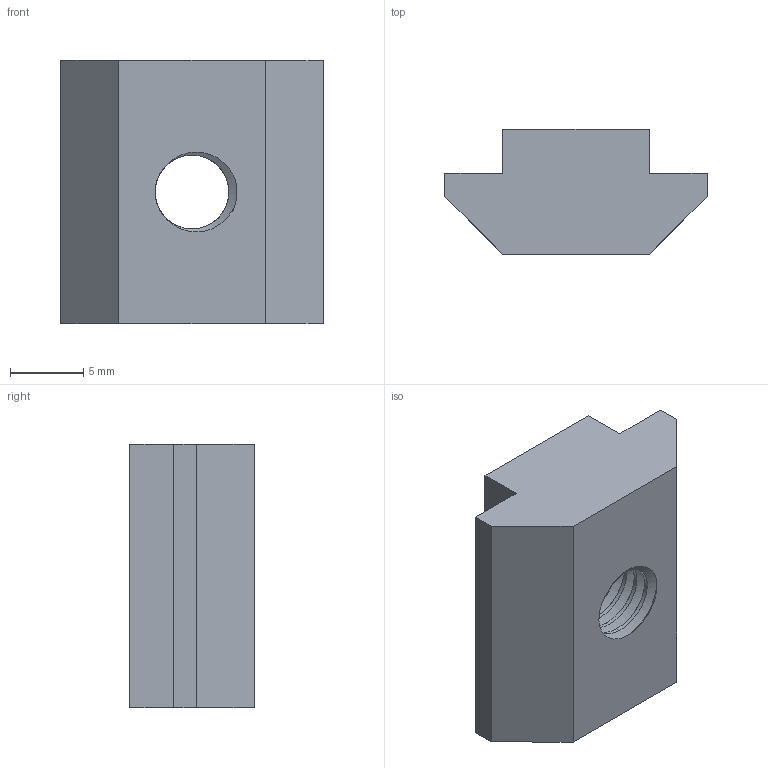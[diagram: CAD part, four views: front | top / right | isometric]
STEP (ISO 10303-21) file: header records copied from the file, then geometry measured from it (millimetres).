
FILE_DESCRIPTION(/* description */ ('STEP AP203'),/* implementation_level */ '2;1');
FILE_NAME(/* name */ 'M6 40 & 45 Series Roll In Nut - T-Slot - Zinc Plated.step',/* time_stamp */ '2024-08-20T23:34:54+03:00',/* author */ (''),/* organization */ (''),/* preprocessor_version */ 'ST-DEVELOPER v20',/* originating_system */ 'Autodesk Translation Framework v13.14.0.145',/* authorisation */ '');
FILE_SCHEMA (('AUTOMOTIVE_DESIGN { 1 0 10303 214 3 1 1 }'));
Length unit declared in the file: millimetre
Products named in the file (1): 2142.010.003
Bounding box: 17.9 x 8.5 x 18 mm (x, y, z)
Volume: 1829.4 mm3; surface area: 1287.8 mm2
Topology: 1 solids, 1 shells, 33 faces, 93 edges, 62 vertices
Faces by surface type: cylinder 19, plane 12, bspline 2
Full cylindrical faces by diameter (mm): 5.035 x3, 6.147 x2
Entity records: 2360 total; most frequent: CARTESIAN_POINT 1551, ORIENTED_EDGE 186, DIRECTION 119, EDGE_CURVE 93, VERTEX_POINT 62, LINE 47, VECTOR 47, B_SPLINE_CURVE_WITH_KNOTS 42
